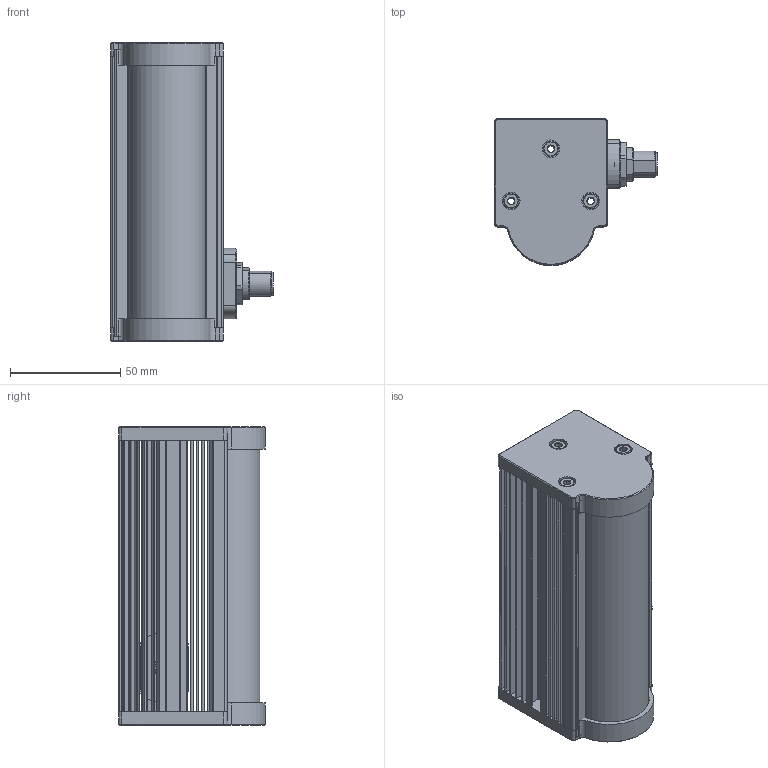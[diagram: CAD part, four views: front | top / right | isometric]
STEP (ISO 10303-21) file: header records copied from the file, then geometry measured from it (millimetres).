
FILE_DESCRIPTION (( 'STEP AP214' ), '1' );
FILE_NAME ('EFFI-FLEX-5-XXX-YY-ZZ-CYL-C.STEP', '2023-02-06T15:06:39', ( '' ), ( '' ), 'SwSTEP 2.0', 'SolidWorks 2022', '' );
FILE_SCHEMA (( 'AUTOMOTIVE_DESIGN' ));
Length unit declared in the file: millimetre
Products named in the file (1): EFFI-FLEX-5-XXX-YY-ZZ-CYL-C
Bounding box: 73.7 x 66.51 x 135 mm (x, y, z)
Surface area: 76955.8 mm2 (no closed solid volume)
Topology: 0 solids, 15 shells, 379 faces, 1692 edges, 1294 vertices
Faces by surface type: plane 196, cylinder 110, cone 67, bspline 6
Full cylindrical faces by diameter (mm): 4.5 x1, 5.2 x2, 7 x4, 8 x6, 8.3 x1, 10.4 x1
Entity records: 21784 total; most frequent: CARTESIAN_POINT 3882, DIRECTION 2980, ORIENTED_EDGE 2550, EDGE_CURVE 1660, VERTEX_POINT 1284, AXIS2_PLACEMENT_3D 1016, VECTOR 948, LINE 948
